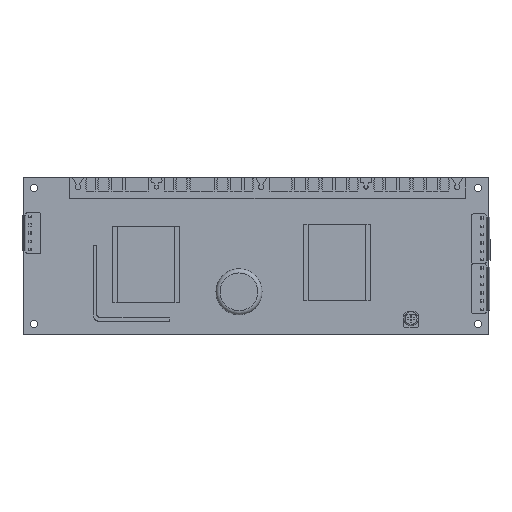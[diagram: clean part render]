
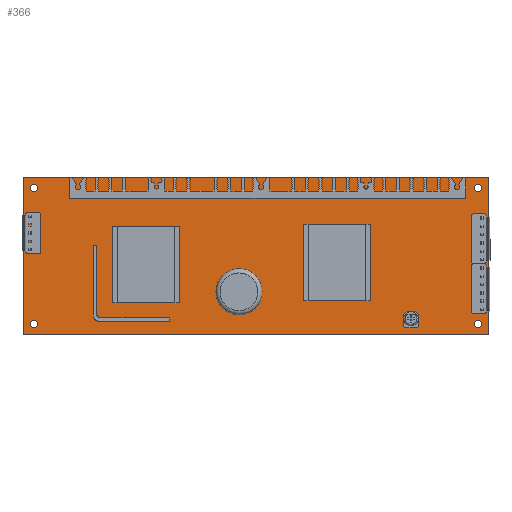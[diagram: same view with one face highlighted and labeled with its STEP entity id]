
A CAD part, top view. The second image highlights one B-rep face of the part: STEP entity #366.
In plain terms, the highlighted planar face has unit normal (0, 0, 1).
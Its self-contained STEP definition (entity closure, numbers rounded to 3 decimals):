
#112=CARTESIAN_POINT('',(200.085,-4.348,1.6));
#113=VERTEX_POINT('',#112);
#114=CARTESIAN_POINT('',(198.335,-4.348,1.6));
#115=DIRECTION('',(0.0,0.0,-1.0));
#116=DIRECTION('',(-1.0,0.0,0.0));
#117=AXIS2_PLACEMENT_3D('',#114,#115,#116);
#118=CIRCLE('',#117,1.75);
#119=EDGE_CURVE('',#113,#113,#118,.T.);
#140=CARTESIAN_POINT('',(200.085,60.652,1.6));
#141=VERTEX_POINT('',#140);
#142=CARTESIAN_POINT('',(198.335,60.652,1.6));
#143=DIRECTION('',(0.0,0.0,-1.0));
#144=DIRECTION('',(-1.0,0.0,0.0));
#145=AXIS2_PLACEMENT_3D('',#142,#143,#144);
#146=CIRCLE('',#145,1.75);
#147=EDGE_CURVE('',#141,#141,#146,.T.);
#168=CARTESIAN_POINT('',(-11.915,-4.348,1.6));
#169=VERTEX_POINT('',#168);
#170=CARTESIAN_POINT('',(-13.665,-4.348,1.6));
#171=DIRECTION('',(0.0,0.0,-1.0));
#172=DIRECTION('',(-1.0,0.0,0.0));
#173=AXIS2_PLACEMENT_3D('',#170,#171,#172);
#174=CIRCLE('',#173,1.75);
#175=EDGE_CURVE('',#169,#169,#174,.T.);
#196=CARTESIAN_POINT('',(-11.915,60.652,1.6));
#197=VERTEX_POINT('',#196);
#198=CARTESIAN_POINT('',(-13.665,60.652,1.6));
#199=DIRECTION('',(0.0,0.0,-1.0));
#200=DIRECTION('',(-1.0,0.0,0.0));
#201=AXIS2_PLACEMENT_3D('',#198,#199,#200);
#202=CIRCLE('',#201,1.75);
#203=EDGE_CURVE('',#197,#197,#202,.T.);
#224=CARTESIAN_POINT('',(203.335,65.652,1.6));
#225=VERTEX_POINT('',#224);
#226=CARTESIAN_POINT('',(203.335,-9.348,1.6));
#227=VERTEX_POINT('',#226);
#228=CARTESIAN_POINT('',(203.335,65.652,1.6));
#229=DIRECTION('',(0.0,-1.0,0.0));
#230=VECTOR('',#229,75.0);
#231=LINE('',#228,#230);
#232=EDGE_CURVE('',#225,#227,#231,.T.);
#264=CARTESIAN_POINT('',(-18.665,-9.348,1.6));
#265=VERTEX_POINT('',#264);
#266=CARTESIAN_POINT('',(203.335,-9.348,1.6));
#267=DIRECTION('',(-1.0,0.0,0.0));
#268=VECTOR('',#267,222.0);
#269=LINE('',#266,#268);
#270=EDGE_CURVE('',#227,#265,#269,.T.);
#295=CARTESIAN_POINT('',(-18.665,65.652,1.6));
#296=VERTEX_POINT('',#295);
#297=CARTESIAN_POINT('',(-18.665,-9.348,1.6));
#298=DIRECTION('',(0.0,1.0,0.0));
#299=VECTOR('',#298,75.0);
#300=LINE('',#297,#299);
#301=EDGE_CURVE('',#265,#296,#300,.T.);
#326=CARTESIAN_POINT('',(-18.665,65.652,1.6));
#327=DIRECTION('',(1.0,0.0,0.0));
#328=VECTOR('',#327,222.);
#329=LINE('',#326,#328);
#330=EDGE_CURVE('',#296,#225,#329,.T.);
#343=CARTESIAN_POINT('',(92.335,28.152,1.6));
#344=DIRECTION('',(0.0,0.0,1.0));
#345=DIRECTION('',(1.0,0.0,0.0));
#346=AXIS2_PLACEMENT_3D('',#343,#344,#345);
#347=PLANE('',#346);
#348=ORIENTED_EDGE('',*,*,#232,.F.);
#349=ORIENTED_EDGE('',*,*,#330,.F.);
#350=ORIENTED_EDGE('',*,*,#301,.F.);
#351=ORIENTED_EDGE('',*,*,#270,.F.);
#352=EDGE_LOOP('',(#348,#349,#350,#351));
#353=FACE_OUTER_BOUND('',#352,.T.);
#354=ORIENTED_EDGE('',*,*,#119,.T.);
#355=EDGE_LOOP('',(#354));
#356=FACE_BOUND('',#355,.T.);
#357=ORIENTED_EDGE('',*,*,#147,.T.);
#358=EDGE_LOOP('',(#357));
#359=FACE_BOUND('',#358,.T.);
#360=ORIENTED_EDGE('',*,*,#175,.T.);
#361=EDGE_LOOP('',(#360));
#362=FACE_BOUND('',#361,.T.);
#363=ORIENTED_EDGE('',*,*,#203,.T.);
#364=EDGE_LOOP('',(#363));
#365=FACE_BOUND('',#364,.T.);
#366=ADVANCED_FACE('',(#353,#356,#359,#362,#365),#347,.T.);
